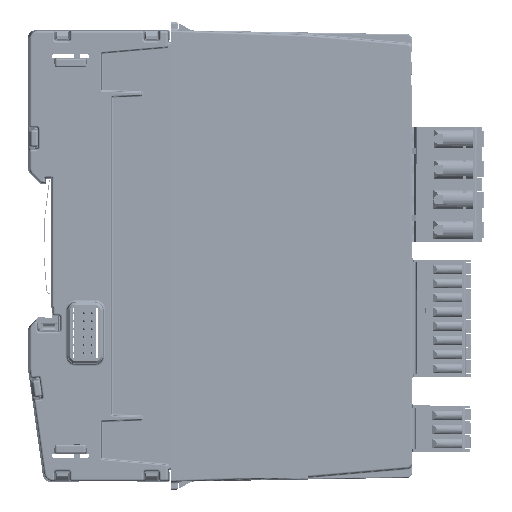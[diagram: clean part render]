
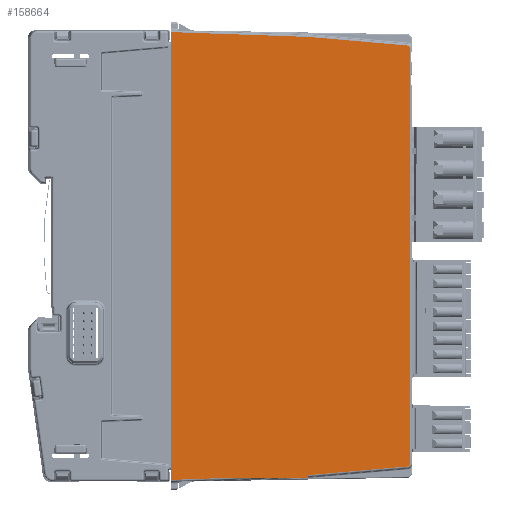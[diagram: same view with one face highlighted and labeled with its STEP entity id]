
A CAD part, left-side view. The second image highlights one B-rep face of the part: STEP entity #158664.
In plain terms, the highlighted planar face has unit normal (-1, -0.018, 0).
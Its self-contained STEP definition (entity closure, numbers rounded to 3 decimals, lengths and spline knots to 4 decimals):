
#4855=ELLIPSE('',#170806,0.0315,0.0315);
#4856=ELLIPSE('',#170807,0.0315,0.0315);
#9750=PLANE('',#170805);
#17390=FACE_OUTER_BOUND('',#26235,.T.);
#26235=EDGE_LOOP('',(#136988,#136989,#136990,#136991,#136992,#136993,#136994,
#136995,#136996,#136997,#136998,#136999,#137000));
#45528=LINE('',#269740,#61465);
#45541=LINE('',#269812,#61478);
#45598=LINE('',#270040,#61535);
#45908=LINE('',#271487,#61845);
#45909=LINE('',#271489,#61846);
#45910=LINE('',#271493,#61847);
#45911=LINE('',#271497,#61848);
#45912=LINE('',#271499,#61849);
#45913=LINE('',#271501,#61850);
#45914=LINE('',#271503,#61851);
#45915=LINE('',#271504,#61852);
#61465=VECTOR('',#207416,0.3937);
#61478=VECTOR('',#207457,0.3937);
#61535=VECTOR('',#207652,39.3701);
#61845=VECTOR('',#208354,39.3701);
#61846=VECTOR('',#208355,39.3701);
#61847=VECTOR('',#208358,39.3701);
#61848=VECTOR('',#208361,39.3701);
#61849=VECTOR('',#208362,39.3701);
#61850=VECTOR('',#208363,39.3701);
#61851=VECTOR('',#208364,39.3701);
#61852=VECTOR('',#208365,39.3701);
#75576=VERTEX_POINT('',#269736);
#75578=VERTEX_POINT('',#269739);
#75600=VERTEX_POINT('',#269807);
#75658=VERTEX_POINT('',#270039);
#75987=VERTEX_POINT('',#271486);
#75988=VERTEX_POINT('',#271488);
#75989=VERTEX_POINT('',#271490);
#75990=VERTEX_POINT('',#271492);
#75991=VERTEX_POINT('',#271494);
#75992=VERTEX_POINT('',#271496);
#75993=VERTEX_POINT('',#271498);
#75994=VERTEX_POINT('',#271500);
#75995=VERTEX_POINT('',#271502);
#96017=EDGE_CURVE('',#75576,#75578,#45528,.T.);
#96044=EDGE_CURVE('',#75578,#75600,#45541,.T.);
#96137=EDGE_CURVE('',#75658,#75600,#45598,.T.);
#96607=EDGE_CURVE('',#75576,#75987,#45908,.T.);
#96608=EDGE_CURVE('',#75987,#75988,#45909,.T.);
#96609=EDGE_CURVE('',#75988,#75989,#4855,.T.);
#96610=EDGE_CURVE('',#75989,#75990,#45910,.T.);
#96611=EDGE_CURVE('',#75990,#75991,#4856,.T.);
#96612=EDGE_CURVE('',#75991,#75992,#45911,.T.);
#96613=EDGE_CURVE('',#75992,#75993,#45912,.T.);
#96614=EDGE_CURVE('',#75993,#75994,#45913,.T.);
#96615=EDGE_CURVE('',#75995,#75994,#45914,.T.);
#96616=EDGE_CURVE('',#75995,#75658,#45915,.T.);
#136988=ORIENTED_EDGE('',*,*,#96607,.T.);
#136989=ORIENTED_EDGE('',*,*,#96608,.T.);
#136990=ORIENTED_EDGE('',*,*,#96609,.T.);
#136991=ORIENTED_EDGE('',*,*,#96610,.T.);
#136992=ORIENTED_EDGE('',*,*,#96611,.T.);
#136993=ORIENTED_EDGE('',*,*,#96612,.T.);
#136994=ORIENTED_EDGE('',*,*,#96613,.T.);
#136995=ORIENTED_EDGE('',*,*,#96614,.T.);
#136996=ORIENTED_EDGE('',*,*,#96615,.F.);
#136997=ORIENTED_EDGE('',*,*,#96616,.T.);
#136998=ORIENTED_EDGE('',*,*,#96137,.T.);
#136999=ORIENTED_EDGE('',*,*,#96044,.F.);
#137000=ORIENTED_EDGE('',*,*,#96017,.F.);
#158664=ADVANCED_FACE('',(#17390),#9750,.T.);
#170805=AXIS2_PLACEMENT_3D('',#271485,#208352,#208353);
#170806=AXIS2_PLACEMENT_3D('',#271491,#208356,#208357);
#170807=AXIS2_PLACEMENT_3D('',#271495,#208359,#208360);
#207416=DIRECTION('',(0.,0.,-1.));
#207457=DIRECTION('',(-0.017,1.,0.));
#207652=DIRECTION('',(0.017,-0.999,0.035));
#208352=DIRECTION('center_axis',(-1.,-0.017,
0.));
#208353=DIRECTION('ref_axis',(-0.017,1.,0.));
#208354=DIRECTION('',(0.017,-0.999,0.035));
#208355=DIRECTION('',(0.017,-0.996,0.087));
#208356=DIRECTION('center_axis',(-1.,-0.017,
0.));
#208357=DIRECTION('ref_axis',(0.017,-1.,0.));
#208358=DIRECTION('',(0.,0.,1.));
#208359=DIRECTION('center_axis',(-1.,-0.017,
0.));
#208360=DIRECTION('ref_axis',(0.017,-1.,0.));
#208361=DIRECTION('',(-0.017,0.996,0.087));
#208362=DIRECTION('',(-0.017,0.999,0.035));
#208363=DIRECTION('',(0.,0.,-1.));
#208364=DIRECTION('',(0.,0.,1.));
#208365=DIRECTION('',(0.,0.,-1.));
#269736=CARTESIAN_POINT('',(0.0005,-2.2096,-4.1958));
#269739=CARTESIAN_POINT('',(0.0005,-2.2096,-4.2206));
#269740=CARTESIAN_POINT('',(0.0005,-2.2096,-3.155));
#269807=CARTESIAN_POINT('',(-0.0119,-1.4997,-4.2206));
#269812=CARTESIAN_POINT('',(-0.0131,-1.4351,-4.2206));
#270039=CARTESIAN_POINT('',(-0.0227,-0.8827,-4.2421));
#270040=CARTESIAN_POINT('',(-0.0282,-0.5654,-4.2532));
#271485=CARTESIAN_POINT('Origin',(-0.0296,-0.489,
-2.0669));
#271486=CARTESIAN_POINT('',(0.0007,-2.2205,-4.1954));
#271487=CARTESIAN_POINT('',(-0.0282,-0.5654,-4.2532));
#271488=CARTESIAN_POINT('',(0.0174,-3.1772,-4.1117));
#271489=CARTESIAN_POINT('',(-0.0261,-0.6869,-4.3296));
#271490=CARTESIAN_POINT('',(0.0179,-3.2059,-4.0803));
#271491=CARTESIAN_POINT('Origin',(0.0173,-3.1744,
-4.0803));
#271492=CARTESIAN_POINT('',(0.0179,-3.2059,-0.0535));
#271493=CARTESIAN_POINT('',(0.0179,-3.2059,-0.0535));
#271494=CARTESIAN_POINT('',(0.0174,-3.1772,-0.0221));
#271495=CARTESIAN_POINT('Origin',(0.0173,-3.1744,
-0.0535));
#271496=CARTESIAN_POINT('',(0.0007,-2.2205,0.0616));
#271497=CARTESIAN_POINT('',(-0.0261,-0.6869,0.1957));
#271498=CARTESIAN_POINT('',(-0.0227,-0.8827,0.1083));
#271499=CARTESIAN_POINT('',(-0.0282,-0.5654,0.1194));
#271500=CARTESIAN_POINT('',(-0.0227,-0.8827,-0.0312));
#271501=CARTESIAN_POINT('',(-0.0227,-0.8827,0.128));
#271502=CARTESIAN_POINT('',(-0.0227,-0.8827,-4.1027));
#271503=CARTESIAN_POINT('',(-0.0227,-0.8827,-7.5932));
#271504=CARTESIAN_POINT('',(-0.0227,-0.8827,0.128));
